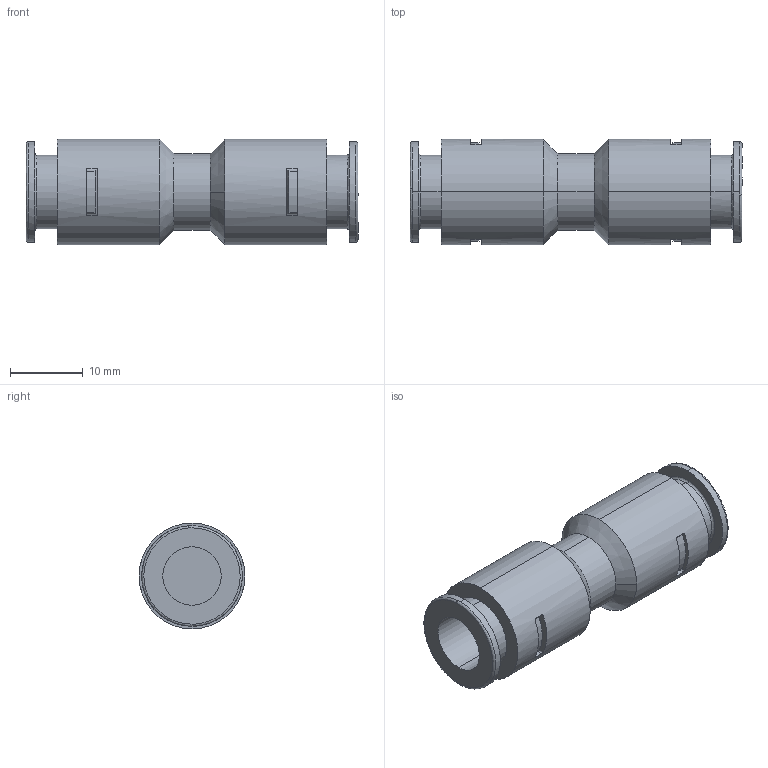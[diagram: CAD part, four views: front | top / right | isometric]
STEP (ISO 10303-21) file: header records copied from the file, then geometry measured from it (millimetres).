
FILE_DESCRIPTION (( 'STEP AP214' ), '1' );
FILE_NAME ('KQ2H08-00A.STEP', '2023-03-06T08:58:01', ( 'Windows User' ), ( 'P R C' ), 'SwSTEP 2.0', 'SolidWorks 2019', '' );
FILE_SCHEMA (( 'AUTOMOTIVE_DESIGN' ));
Length unit declared in the file: millimetre
Products named in the file (1): KQ2H08-00A
Bounding box: 45.5 x 14.5 x 14.5 mm (x, y, z)
Volume: 4134.8 mm3; surface area: 3735.7 mm2
Topology: 1 solids, 1 shells, 100 faces, 263 edges, 175 vertices
Faces by surface type: cylinder 51, plane 32, cone 9, bspline 8
Entity records: 3728 total; most frequent: CARTESIAN_POINT 1281, ORIENTED_EDGE 526, DIRECTION 484, EDGE_CURVE 263, AXIS2_PLACEMENT_3D 190, VERTEX_POINT 175, EDGE_LOOP 110, LINE 104
